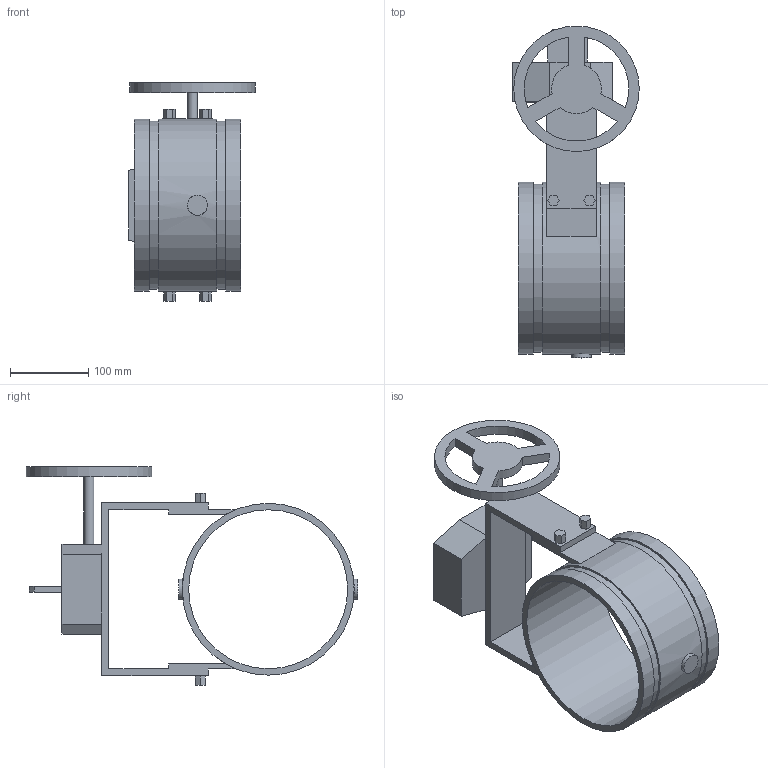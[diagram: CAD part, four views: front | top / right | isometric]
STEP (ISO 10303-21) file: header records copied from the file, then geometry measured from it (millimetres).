
FILE_DESCRIPTION(/* description */ ('VIC FIRELOCK BUTTERFLY VALVE SERIES 707 W/ WEATHERPROOF ACTUATOR FOR 300 PSI','CAx-IF Rec.Pracs.---Representation and Presentation of Product Manufacturing Information (PMI)---4.0---2014-10-13'),/* implementation_level */ '2;1');
FILE_NAME(/* name */ 'C:\Users\Vjadhav\AppData\Roaming\Autodesk\ApplicationPlugins\Back Up\Victaulic_FP-FireLock_Valve Butterfly_Series 707 (OGS)-Closed\Victaulic_FP-FireLock_Valve Butterfly_Series 707 (OGS)-Closed_8 (200).stp',/* time_stamp */ '2020-07-22T11:31:40+05:00',/* author */ ('kkamble'),/* organization */ ('Victaulic'),/* preprocessor_version */ 'ST-DEVELOPER v17.2',/* originating_system */ 'Autodesk Inventor 2019',/* authorisation */ '');
FILE_SCHEMA (('AP242_MANAGED_MODEL_BASED_3D_ENGINEERING_MIM_LF { 1 0 10303 442 1 1 4 }'));
Length unit declared in the file: inch
Products named in the file (1): 707-08.0
Bounding box: 161.29 x 422.91 x 278.89 mm (x, y, z)
Volume: 1906612.8 mm3; surface area: 358954.2 mm2
Topology: 1 solids, 1 shells, 95 faces, 254 edges, 173 vertices
Faces by surface type: plane 79, cylinder 16
Full cylindrical faces by diameter (mm): 12.624 x1, 25.4 x2, 160.02 x1, 202.717 x1, 214.401 x2, 219.075 x3
Entity records: 3306 total; most frequent: CARTESIAN_POINT 609, DIRECTION 515, ORIENTED_EDGE 508, EDGE_CURVE 254, LINE 201, VECTOR 201, VERTEX_POINT 173, AXIS2_PLACEMENT_3D 157
